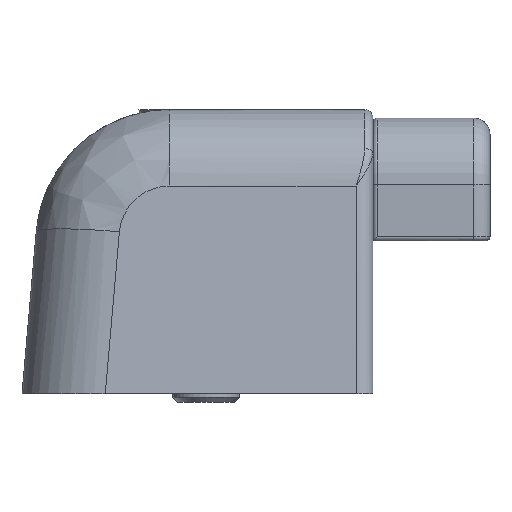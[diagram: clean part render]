
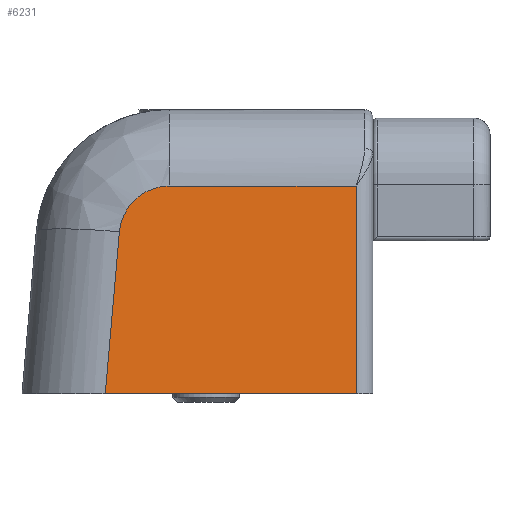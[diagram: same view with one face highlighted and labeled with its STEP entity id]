
A CAD part, front view. The second image highlights one B-rep face of the part: STEP entity #6231.
In plain terms, the highlighted planar face has unit normal (0, -0.996, 0.087).
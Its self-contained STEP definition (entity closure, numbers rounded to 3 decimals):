
#222=PLANE('',#6647);
#268=ELLIPSE('',#6249,6.023,6.);
#689=FACE_OUTER_BOUND('',#1058,.T.);
#1058=EDGE_LOOP('',(#5835,#5836,#5837,#5838,#5839));
#1061=LINE('',#8207,#1684);
#1674=LINE('',#11188,#2297);
#1675=LINE('',#11192,#2298);
#1680=LINE('',#11206,#2303);
#1684=VECTOR('',#6664,10.);
#2297=VECTOR('',#8061,10.);
#2298=VECTOR('',#8066,10.);
#2303=VECTOR('',#8083,10.);
#2570=VERTEX_POINT('',#8176);
#2573=VERTEX_POINT('',#8205);
#2577=VERTEX_POINT('',#8270);
#3144=VERTEX_POINT('',#11187);
#3145=VERTEX_POINT('',#11191);
#3159=EDGE_CURVE('',#2573,#2570,#1061,.T.);
#3166=EDGE_CURVE('',#2577,#2573,#268,.T.);
#4035=EDGE_CURVE('',#2570,#3144,#1674,.T.);
#4037=EDGE_CURVE('',#3144,#3145,#1675,.T.);
#4044=EDGE_CURVE('',#3145,#2577,#1680,.T.);
#5835=ORIENTED_EDGE('',*,*,#4035,.F.);
#5836=ORIENTED_EDGE('',*,*,#3159,.F.);
#5837=ORIENTED_EDGE('',*,*,#3166,.F.);
#5838=ORIENTED_EDGE('',*,*,#4044,.F.);
#5839=ORIENTED_EDGE('',*,*,#4037,.F.);
#6231=ADVANCED_FACE('',(#689),#222,.T.);
#6249=AXIS2_PLACEMENT_3D('',#8272,#6673,#6674);
#6647=AXIS2_PLACEMENT_3D('',#11209,#8087,#8088);
#6664=DIRECTION('',(1.,0.,0.));
#6673=DIRECTION('center_axis',(0.,0.996,-0.087));
#6674=DIRECTION('ref_axis',(0.,0.087,0.996));
#8061=DIRECTION('',(0.,-0.087,-0.996));
#8066=DIRECTION('',(-1.,0.,0.));
#8083=DIRECTION('',(0.087,0.087,0.992));
#8087=DIRECTION('center_axis',(0.,-0.996,0.087));
#8088=DIRECTION('ref_axis',(0.,-0.087,-0.996));
#8176=CARTESIAN_POINT('',(-2.,-18.824,24.872));
#8205=CARTESIAN_POINT('',(-24.364,-18.824,24.872));
#8207=CARTESIAN_POINT('',(0.,-18.824,24.872));
#8270=CARTESIAN_POINT('',(-30.341,-19.303,19.394));
#8272=CARTESIAN_POINT('Origin',(-24.364,-19.349,18.872));
#11187=CARTESIAN_POINT('',(-2.,-21.,0.));
#11188=CARTESIAN_POINT('',(-2.,-18.725,26.004));
#11191=CARTESIAN_POINT('',(-32.038,-21.,0.));
#11192=CARTESIAN_POINT('',(0.,-21.,0.));
#11206=CARTESIAN_POINT('',(-28.923,-17.885,35.6));
#11209=CARTESIAN_POINT('Origin',(0.,-18.025,34.));
